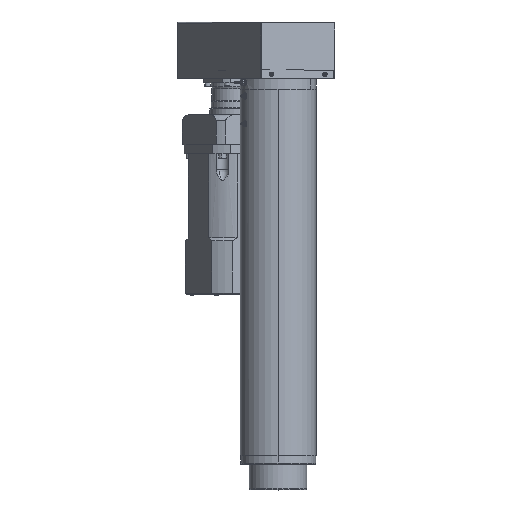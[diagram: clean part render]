
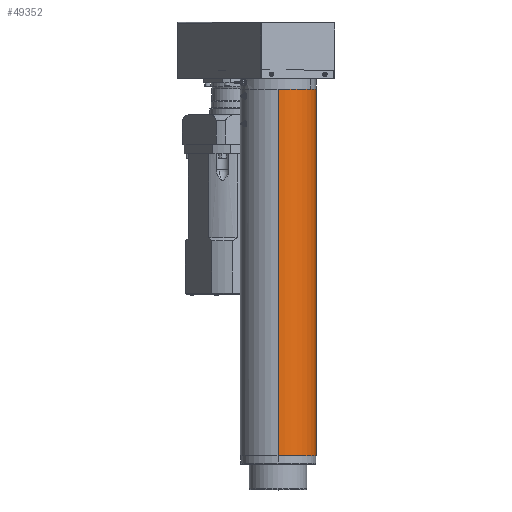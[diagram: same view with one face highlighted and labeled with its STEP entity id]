
A CAD part, top view. The second image highlights one B-rep face of the part: STEP entity #49352.
In plain terms, the highlighted cylindrical face has radius 89 mm (diameter 178 mm), a partial arc.
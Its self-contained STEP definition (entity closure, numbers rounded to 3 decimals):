
#31 = EDGE_CURVE ( 'NONE', #14789, #31376, #28972, .T. ) ;
#1089 = CARTESIAN_POINT ( 'NONE',  ( 0., 20., 89. ) ) ;
#1788 = LINE ( 'NONE', #49680, #18471 ) ;
#4524 = VERTEX_POINT ( 'NONE', #30247 ) ;
#11020 = DIRECTION ( 'NONE',  ( 0., 0., -1. ) ) ;
#11250 = VERTEX_POINT ( 'NONE', #1089 ) ;
#11965 = EDGE_LOOP ( 'NONE', ( #20194, #19799, #35058, #53238 ) ) ;
#12383 = AXIS2_PLACEMENT_3D ( 'NONE', #45296, #32445, #45568 ) ;
#12388 = DIRECTION ( 'NONE',  ( 0., -1., 0. ) ) ;
#14406 = CARTESIAN_POINT ( 'NONE',  ( 0., 880., 0. ) ) ;
#14666 = DIRECTION ( 'NONE',  ( 0., -1., 0. ) ) ;
#14789 = VERTEX_POINT ( 'NONE', #23232 ) ;
#18138 = DIRECTION ( 'NONE',  ( 0., 0., -1. ) ) ;
#18471 = VECTOR ( 'NONE', #14666, 1000. ) ;
#19799 = ORIENTED_EDGE ( 'NONE', *, *, #41178, .T. ) ;
#20194 = ORIENTED_EDGE ( 'NONE', *, *, #33690, .T. ) ;
#22052 = CYLINDRICAL_SURFACE ( 'NONE', #46823, 89. ) ;
#22307 = CARTESIAN_POINT ( 'NONE',  ( 0., 20., -89. ) ) ;
#23232 = CARTESIAN_POINT ( 'NONE',  ( 0., 880., -89. ) ) ;
#28972 = LINE ( 'NONE', #46300, #48548 ) ;
#29785 = AXIS2_PLACEMENT_3D ( 'NONE', #14406, #35989, #11020 ) ;
#30247 = CARTESIAN_POINT ( 'NONE',  ( 0., 880., 89. ) ) ;
#30782 = CARTESIAN_POINT ( 'NONE',  ( 0., 0., 0. ) ) ;
#31376 = VERTEX_POINT ( 'NONE', #22307 ) ;
#32445 = DIRECTION ( 'NONE',  ( 0., -1., 0. ) ) ;
#33690 = EDGE_CURVE ( 'NONE', #14789, #4524, #53030, .T. ) ;
#34984 = FACE_OUTER_BOUND ( 'NONE', #11965, .T. ) ;
#35058 = ORIENTED_EDGE ( 'NONE', *, *, #53129, .F. ) ;
#35989 = DIRECTION ( 'NONE',  ( 0., -1., 0. ) ) ;
#36585 = CIRCLE ( 'NONE', #12383, 89. ) ;
#41178 = EDGE_CURVE ( 'NONE', #4524, #11250, #1788, .T. ) ;
#43672 = DIRECTION ( 'NONE',  ( 0., -1., 0. ) ) ;
#45296 = CARTESIAN_POINT ( 'NONE',  ( 0., 20., 0. ) ) ;
#45568 = DIRECTION ( 'NONE',  ( 0., 0., -1. ) ) ;
#46300 = CARTESIAN_POINT ( 'NONE',  ( 0., 0., -89. ) ) ;
#46823 = AXIS2_PLACEMENT_3D ( 'NONE', #30782, #43672, #18138 ) ;
#48548 = VECTOR ( 'NONE', #12388, 1000. ) ;
#49352 = ADVANCED_FACE ( 'NONE', ( #34984 ), #22052, .T. ) ;
#49680 = CARTESIAN_POINT ( 'NONE',  ( 0., 0., 89. ) ) ;
#53030 = CIRCLE ( 'NONE', #29785, 89. ) ;
#53129 = EDGE_CURVE ( 'NONE', #31376, #11250, #36585, .T. ) ;
#53238 = ORIENTED_EDGE ( 'NONE', *, *, #31, .F. ) ;
